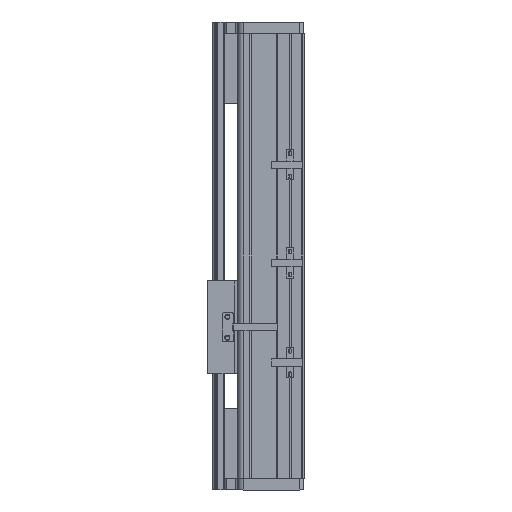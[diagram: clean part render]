
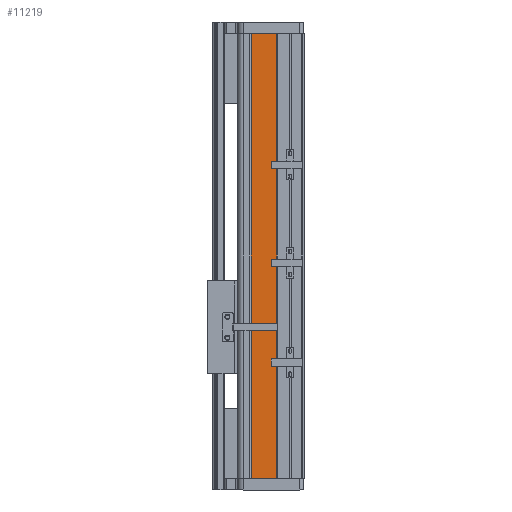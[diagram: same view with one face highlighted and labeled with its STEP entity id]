
A CAD part, left-side view. The second image highlights one B-rep face of the part: STEP entity #11219.
In plain terms, the highlighted planar face has unit normal (-1, 0, 0).
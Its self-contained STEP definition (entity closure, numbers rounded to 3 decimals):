
#233 = CARTESIAN_POINT ( 'NONE',  ( -49.996, 0., 0. ) ) ;
#535 = EDGE_CURVE ( 'NONE', #3430, #8921, #15984, .T. ) ;
#846 = CARTESIAN_POINT ( 'NONE',  ( -49.996, -10.095, 383. ) ) ;
#1396 = DIRECTION ( 'NONE',  ( 1., 0., 0. ) ) ;
#1660 = VECTOR ( 'NONE', #9284, 1000. ) ;
#2214 = CARTESIAN_POINT ( 'NONE',  ( -49.996, 11.696, 383. ) ) ;
#2907 = EDGE_LOOP ( 'NONE', ( #4020, #5131, #4698, #3289 ) ) ;
#3240 = EDGE_CURVE ( 'NONE', #12127, #17646, #17506, .T. ) ;
#3289 = ORIENTED_EDGE ( 'NONE', *, *, #3240, .T. ) ;
#3418 = CARTESIAN_POINT ( 'NONE',  ( -49.996, 11.696, 383. ) ) ;
#3430 = VERTEX_POINT ( 'NONE', #846 ) ;
#3765 = EDGE_CURVE ( 'NONE', #17646, #8921, #17223, .T. ) ;
#4020 = ORIENTED_EDGE ( 'NONE', *, *, #3765, .T. ) ;
#4248 = VECTOR ( 'NONE', #12930, 1000. ) ;
#4698 = ORIENTED_EDGE ( 'NONE', *, *, #6089, .F. ) ;
#5131 = ORIENTED_EDGE ( 'NONE', *, *, #535, .F. ) ;
#5208 = CARTESIAN_POINT ( 'NONE',  ( -49.996, 11.696, 0. ) ) ;
#6089 = EDGE_CURVE ( 'NONE', #12127, #3430, #8754, .T. ) ;
#7290 = PLANE ( 'NONE',  #10570 ) ;
#7929 = VECTOR ( 'NONE', #13031, 1000. ) ;
#8754 = LINE ( 'NONE', #17255, #4248 ) ;
#8921 = VERTEX_POINT ( 'NONE', #12729 ) ;
#9284 = DIRECTION ( 'NONE',  ( 0., -1., 0. ) ) ;
#10443 = CARTESIAN_POINT ( 'NONE',  ( -49.996, 0., 383. ) ) ;
#10570 = AXIS2_PLACEMENT_3D ( 'NONE', #10443, #1396, #11974 ) ;
#10766 = CARTESIAN_POINT ( 'NONE',  ( -49.996, -10.095, 383. ) ) ;
#11219 = ADVANCED_FACE ( 'NONE', ( #16118 ), #7290, .F. ) ;
#11974 = DIRECTION ( 'NONE',  ( 0., 0., -1. ) ) ;
#12127 = VERTEX_POINT ( 'NONE', #2214 ) ;
#12729 = CARTESIAN_POINT ( 'NONE',  ( -49.996, -10.095, 0. ) ) ;
#12930 = DIRECTION ( 'NONE',  ( 0., -1., 0. ) ) ;
#13031 = DIRECTION ( 'NONE',  ( 0., 0., -1. ) ) ;
#13521 = VECTOR ( 'NONE', #18537, 1000. ) ;
#15984 = LINE ( 'NONE', #10766, #7929 ) ;
#16118 = FACE_OUTER_BOUND ( 'NONE', #2907, .T. ) ;
#17223 = LINE ( 'NONE', #233, #1660 ) ;
#17255 = CARTESIAN_POINT ( 'NONE',  ( -49.996, 0., 383. ) ) ;
#17506 = LINE ( 'NONE', #3418, #13521 ) ;
#17646 = VERTEX_POINT ( 'NONE', #5208 ) ;
#18537 = DIRECTION ( 'NONE',  ( 0., 0., -1. ) ) ;
